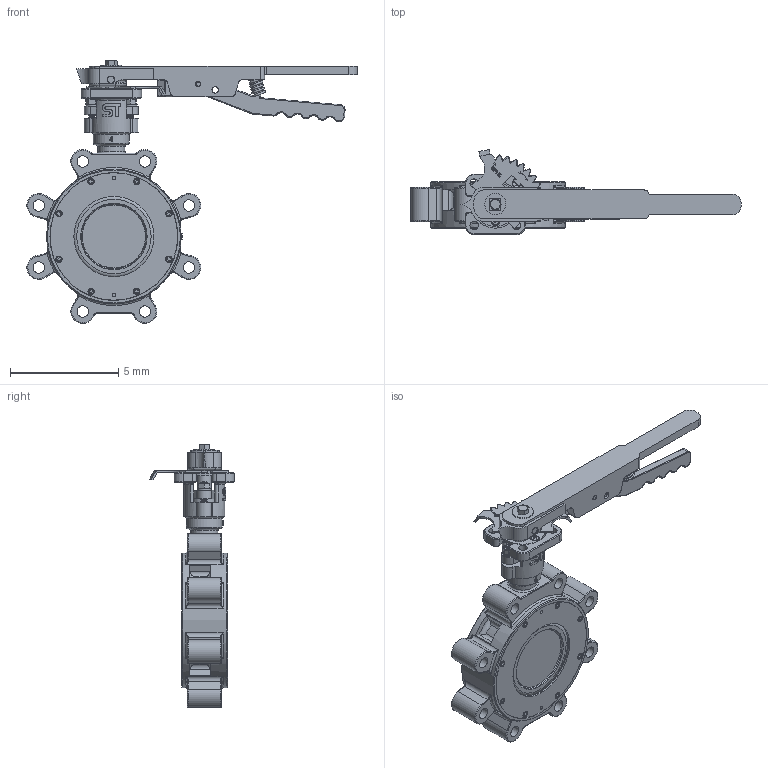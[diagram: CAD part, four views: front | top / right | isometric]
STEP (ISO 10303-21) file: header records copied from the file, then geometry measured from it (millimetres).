
FILE_DESCRIPTION(('Open CASCADE Model'),'2;1');
FILE_NAME('Open CASCADE Shape Model','2022-07-21T07:56:41',('Author'),( 'Open CASCADE'),'Open CASCADE STEP processor 7.3','Open CASCADE 7.3' ,'Unknown');
FILE_SCHEMA(('AUTOMOTIVE_DESIGN { 1 0 10303 214 1 1 1 1 }'));
Length unit declared in the file: millimetre
Products named in the file (40): Open CASCADE STEP translator 7.3 1; Open CASCADE STEP translator 7.3 1.1; Open CASCADE STEP translator 7.3 1.2; Open CASCADE STEP translator 7.3 1.3; Open CASCADE STEP translator 7.3 1.4; Open CASCADE STEP translator 7.3 1.5; Open CASCADE STEP translator 7.3 1.6; Open CASCADE STEP translator 7.3 1.7; Open CASCADE STEP translator 7.3 1.8; Open CASCADE STEP translator 7.3 1.9; Open CASCADE STEP translator 7.3 1.10; Open CASCADE STEP translator 7.3 1.11; Open CASCADE STEP translator 7.3 1.12; Open CASCADE STEP translator 7.3 1.13; Open CASCADE STEP translator 7.3 1.14; Open CASCADE STEP translator 7.3 1.15; Open CASCADE STEP translator 7.3 1.16; Open CASCADE STEP translator 7.3 1.17; Open CASCADE STEP translator 7.3 1.18; Open CASCADE STEP translator 7.3 1.19; Open CASCADE STEP translator 7.3 1.20; Open CASCADE STEP translator 7.3 1.21; Open CASCADE STEP translator 7.3 1.22; Open CASCADE STEP translator 7.3 1.23; Open CASCADE STEP translator 7.3 1.24; Open CASCADE STEP translator 7.3 1.25; Open CASCADE STEP translator 7.3 1.26; Open CASCADE STEP translator 7.3 1.27; Open CASCADE STEP translator 7.3 1.28; Open CASCADE STEP translator 7.3 1.29; Open CASCADE STEP translator 7.3 1.30; Open CASCADE STEP translator 7.3 1.31; Open CASCADE STEP translator 7.3 1.32; Open CASCADE STEP translator 7.3 1.33; Open CASCADE STEP translator 7.3 1.34; Open CASCADE STEP translator 7.3 1.35; Open CASCADE STEP translator 7.3 1.36; Open CASCADE STEP translator 7.3 1.37; Open CASCADE STEP translator 7.3 1.38; Open CASCADE STEP translator 7.3 1.39
Assembly tree (39 placements, depth 2):
  Open CASCADE STEP translator 7.3 1
    Open CASCADE STEP translator 7.3 1.1
    Open CASCADE STEP translator 7.3 1.2
    Open CASCADE STEP translator 7.3 1.3
    Open CASCADE STEP translator 7.3 1.4
    Open CASCADE STEP translator 7.3 1.5
    Open CASCADE STEP translator 7.3 1.6
    Open CASCADE STEP translator 7.3 1.7
    Open CASCADE STEP translator 7.3 1.8
    Open CASCADE STEP translator 7.3 1.9
    Open CASCADE STEP translator 7.3 1.10
    Open CASCADE STEP translator 7.3 1.11
    Open CASCADE STEP translator 7.3 1.12
    Open CASCADE STEP translator 7.3 1.13
    Open CASCADE STEP translator 7.3 1.14
    Open CASCADE STEP translator 7.3 1.15
    Open CASCADE STEP translator 7.3 1.16
    Open CASCADE STEP translator 7.3 1.17
    Open CASCADE STEP translator 7.3 1.18
    Open CASCADE STEP translator 7.3 1.19
    Open CASCADE STEP translator 7.3 1.20
    Open CASCADE STEP translator 7.3 1.21
    Open CASCADE STEP translator 7.3 1.22
    Open CASCADE STEP translator 7.3 1.23
    Open CASCADE STEP translator 7.3 1.24
    Open CASCADE STEP translator 7.3 1.25
    Open CASCADE STEP translator 7.3 1.26
    Open CASCADE STEP translator 7.3 1.27
    Open CASCADE STEP translator 7.3 1.28
    Open CASCADE STEP translator 7.3 1.29
    Open CASCADE STEP translator 7.3 1.30
    Open CASCADE STEP translator 7.3 1.31
    Open CASCADE STEP translator 7.3 1.32
    Open CASCADE STEP translator 7.3 1.33
    Open CASCADE STEP translator 7.3 1.34
    Open CASCADE STEP translator 7.3 1.35
    Open CASCADE STEP translator 7.3 1.36
    Open CASCADE STEP translator 7.3 1.37
    Open CASCADE STEP translator 7.3 1.38
    Open CASCADE STEP translator 7.3 1.39
Bounding box: 15.25 x 3.93 x 12.15 mm (x, y, z)
Volume: 74.9 mm3; surface area: 533.9 mm2
Topology: 39 solids, 39 shells, 1453 faces, 3413 edges, 2098 vertices
Faces by surface type: plane 596, cylinder 428, cone 168, torus 165, bspline 79, sphere 15, revolution 2
Full cylindrical faces by diameter (mm): 0.163 x2, 0.165 x2, 0.177 x16, 0.197 x2, 0.236 x8, 0.276 x8, 0.295 x11, 0.315 x10, 0.33 x1, 0.394 x9, 0.512 x1, 0.527 x8, 0.63 x6, 0.642 x1, 0.65 x1, 0.67 x1, 0.693 x2, 0.985 x1, 1.087 x2, 1.103 x4, 1.261 x1, 1.655 x1, 3.704 x1, 3.869 x1, 3.885 x1, 4.105 x1, 4.176 x1, 4.366 x1, 4.373 x1, 4.413 x1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
Entity records: 147657 total; most frequent: CARTESIAN_POINT 79425, DIRECTION 12553, ORIENTED_EDGE 6756, PCURVE 6756, DEFINITIONAL_REPRESENTATION 6756, LINE 6547, VECTOR 6547, EDGE_CURVE 3378
